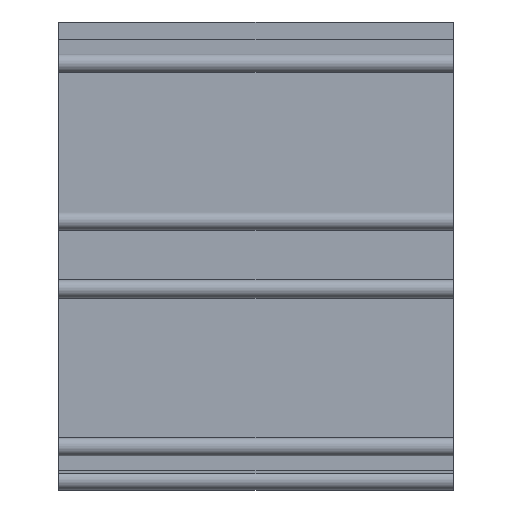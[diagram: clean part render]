
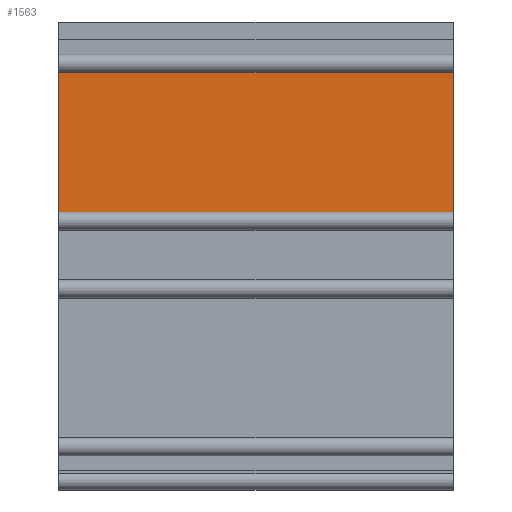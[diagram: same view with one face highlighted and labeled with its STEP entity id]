
A CAD part, top view. The second image highlights one B-rep face of the part: STEP entity #1563.
In plain terms, the highlighted planar face has unit normal (0, 0, 1).
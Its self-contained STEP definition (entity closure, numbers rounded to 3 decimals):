
#62=LINE('',#2329,#249);
#63=LINE('',#2332,#250);
#64=LINE('',#2334,#251);
#65=LINE('',#2335,#252);
#249=VECTOR('',#1871,10.);
#250=VECTOR('',#1874,10.);
#251=VECTOR('',#1875,10.);
#252=VECTOR('',#1876,10.);
#433=PLANE('',#1677);
#503=FACE_OUTER_BOUND('',#585,.T.);
#585=EDGE_LOOP('',(#1158,#1159,#1160,#1161));
#738=VERTEX_POINT('',#2325);
#739=VERTEX_POINT('',#2327);
#740=VERTEX_POINT('',#2331);
#741=VERTEX_POINT('',#2333);
#908=EDGE_CURVE('',#738,#739,#62,.T.);
#909=EDGE_CURVE('',#738,#740,#63,.T.);
#910=EDGE_CURVE('',#741,#739,#64,.T.);
#911=EDGE_CURVE('',#740,#741,#65,.T.);
#1158=ORIENTED_EDGE('',*,*,#909,.F.);
#1159=ORIENTED_EDGE('',*,*,#908,.T.);
#1160=ORIENTED_EDGE('',*,*,#910,.F.);
#1161=ORIENTED_EDGE('',*,*,#911,.F.);
#1563=ADVANCED_FACE('',(#503),#433,.T.);
#1677=AXIS2_PLACEMENT_3D('',#2330,#1872,#1873);
#1871=DIRECTION('',(1.,0.,0.));
#1872=DIRECTION('center_axis',(0.,0.,1.));
#1873=DIRECTION('ref_axis',(0.,-1.,0.));
#1874=DIRECTION('',(0.,1.,0.));
#1875=DIRECTION('',(0.,-1.,0.));
#1876=DIRECTION('',(1.,0.,0.));
#2325=CARTESIAN_POINT('',(0.,99.75,11.));
#2327=CARTESIAN_POINT('',(90.,99.75,11.));
#2329=CARTESIAN_POINT('',(0.,99.75,11.));
#2330=CARTESIAN_POINT('Origin',(0.,133.25,11.));
#2331=CARTESIAN_POINT('',(0.,133.25,11.));
#2332=CARTESIAN_POINT('',(0.,99.75,11.));
#2333=CARTESIAN_POINT('',(90.,133.25,11.));
#2334=CARTESIAN_POINT('',(90.,99.75,11.));
#2335=CARTESIAN_POINT('',(0.,133.25,11.));
